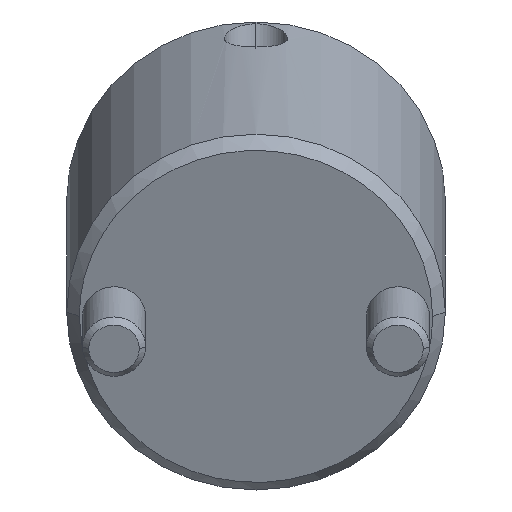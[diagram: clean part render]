
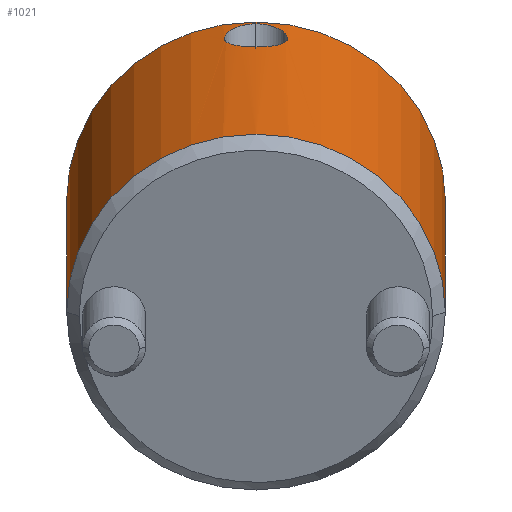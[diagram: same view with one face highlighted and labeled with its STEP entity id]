
A CAD part, front view. The second image highlights one B-rep face of the part: STEP entity #1021.
In plain terms, the highlighted cylindrical face has radius 15 mm (diameter 30 mm), a partial arc.
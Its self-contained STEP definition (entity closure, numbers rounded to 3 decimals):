
#778=CARTESIAN_POINT('Vertex',(0.,15.,1.)) ;
#781=CARTESIAN_POINT('Axis2P3D Location',(0.,0.,1.)) ;
#785=CARTESIAN_POINT('Vertex',(0.,-15.,1.)) ;
#925=CARTESIAN_POINT('Axis2P3D Location',(0.,0.,-1.4)) ;
#930=CARTESIAN_POINT('Line Origine',(0.,15.,-1.4)) ;
#934=CARTESIAN_POINT('Vertex',(0.,15.,27.)) ;
#937=CARTESIAN_POINT('Axis2P3D Location',(0.,0.,27.)) ;
#941=CARTESIAN_POINT('Vertex',(0.,-15.,27.)) ;
#944=CARTESIAN_POINT('Line Origine',(0.,-15.,-1.4)) ;
#956=CARTESIAN_POINT('Control Point',(15.,0.,26.57)) ;
#957=CARTESIAN_POINT('Control Point',(15.,0.072,26.57)) ;
#958=CARTESIAN_POINT('Control Point',(15.,0.143,26.567)) ;
#959=CARTESIAN_POINT('Control Point',(14.999,0.215,26.562)) ;
#960=CARTESIAN_POINT('Control Point',(14.995,0.43,26.536)) ;
#961=CARTESIAN_POINT('Control Point',(14.987,0.644,26.482)) ;
#962=CARTESIAN_POINT('Control Point',(14.98,0.791,26.433)) ;
#963=CARTESIAN_POINT('Control Point',(14.963,1.068,26.315)) ;
#964=CARTESIAN_POINT('Control Point',(14.943,1.321,26.156)) ;
#965=CARTESIAN_POINT('Control Point',(14.931,1.446,26.063)) ;
#966=CARTESIAN_POINT('Control Point',(14.888,1.86,25.706)) ;
#967=CARTESIAN_POINT('Control Point',(14.842,2.185,25.238)) ;
#968=CARTESIAN_POINT('Control Point',(14.813,2.362,24.853)) ;
#969=CARTESIAN_POINT('Control Point',(14.779,2.566,24.037)) ;
#970=CARTESIAN_POINT('Control Point',(14.794,2.477,23.216)) ;
#971=CARTESIAN_POINT('Control Point',(14.815,2.36,22.828)) ;
#972=CARTESIAN_POINT('Control Point',(14.861,2.062,22.266)) ;
#973=CARTESIAN_POINT('Control Point',(14.914,1.62,21.831)) ;
#974=CARTESIAN_POINT('Control Point',(14.933,1.437,21.688)) ;
#975=CARTESIAN_POINT('Control Point',(14.961,1.112,21.49)) ;
#976=CARTESIAN_POINT('Control Point',(14.982,0.75,21.358)) ;
#977=CARTESIAN_POINT('Control Point',(14.989,0.597,21.315)) ;
#978=CARTESIAN_POINT('Control Point',(14.996,0.388,21.273)) ;
#979=CARTESIAN_POINT('Control Point',(14.999,0.179,21.254)) ;
#980=CARTESIAN_POINT('Control Point',(15.,0.12,21.251)) ;
#981=CARTESIAN_POINT('Control Point',(15.,0.06,21.249)) ;
#982=CARTESIAN_POINT('Control Point',(15.,0.,21.249)) ;
#983=CARTESIAN_POINT('Vertex',(15.,0.,26.57)) ;
#985=CARTESIAN_POINT('Vertex',(15.,0.,21.249)) ;
#989=CARTESIAN_POINT('Control Point',(15.,0.,21.249)) ;
#990=CARTESIAN_POINT('Control Point',(15.,-0.15,21.249)) ;
#991=CARTESIAN_POINT('Control Point',(14.998,-0.3,21.26)) ;
#992=CARTESIAN_POINT('Control Point',(14.994,-0.45,21.283)) ;
#993=CARTESIAN_POINT('Control Point',(14.983,-0.75,21.353)) ;
#994=CARTESIAN_POINT('Control Point',(14.965,-1.037,21.468)) ;
#995=CARTESIAN_POINT('Control Point',(14.955,-1.172,21.535)) ;
#996=CARTESIAN_POINT('Control Point',(14.91,-1.699,21.849)) ;
#997=CARTESIAN_POINT('Control Point',(14.854,-2.117,22.318)) ;
#998=CARTESIAN_POINT('Control Point',(14.816,-2.347,22.745)) ;
#999=CARTESIAN_POINT('Control Point',(14.787,-2.517,23.376)) ;
#1000=CARTESIAN_POINT('Control Point',(14.79,-2.501,24.027)) ;
#1001=CARTESIAN_POINT('Control Point',(14.793,-2.484,24.194)) ;
#1002=CARTESIAN_POINT('Control Point',(14.805,-2.414,24.603)) ;
#1003=CARTESIAN_POINT('Control Point',(14.827,-2.273,24.995)) ;
#1004=CARTESIAN_POINT('Control Point',(14.844,-2.163,25.22)) ;
#1005=CARTESIAN_POINT('Control Point',(14.881,-1.904,25.631)) ;
#1006=CARTESIAN_POINT('Control Point',(14.919,-1.572,25.969)) ;
#1007=CARTESIAN_POINT('Control Point',(14.937,-1.389,26.118)) ;
#1008=CARTESIAN_POINT('Control Point',(14.959,-1.134,26.282)) ;
#1009=CARTESIAN_POINT('Control Point',(14.976,-0.853,26.403)) ;
#1010=CARTESIAN_POINT('Control Point',(14.98,-0.782,26.431)) ;
#1011=CARTESIAN_POINT('Control Point',(14.989,-0.587,26.497)) ;
#1012=CARTESIAN_POINT('Control Point',(14.996,-0.386,26.543)) ;
#1013=CARTESIAN_POINT('Control Point',(14.999,-0.258,26.561)) ;
#1014=CARTESIAN_POINT('Control Point',(15.,-0.13,26.57)) ;
#1015=CARTESIAN_POINT('Control Point',(15.,0.,26.57)) ;
#782=DIRECTION('Axis2P3D Direction',(0.,0.,1.)) ;
#926=DIRECTION('Axis2P3D Direction',(0.,-0.,1.)) ;
#927=DIRECTION('Axis2P3D XDirection',(0.,-1.,0.)) ;
#931=DIRECTION('Vector Direction',(0.,0.,1.)) ;
#938=DIRECTION('Axis2P3D Direction',(0.,-0.,1.)) ;
#945=DIRECTION('Vector Direction',(0.,0.,1.)) ;
#783=AXIS2_PLACEMENT_3D('Circle Axis2P3D',#781,#782,$) ;
#928=AXIS2_PLACEMENT_3D('Cylinder Axis2P3D',#925,#926,#927) ;
#939=AXIS2_PLACEMENT_3D('Circle Axis2P3D',#937,#938,$) ;
#950=ORIENTED_EDGE('',*,*,#936,.F.) ;
#951=ORIENTED_EDGE('',*,*,#943,.T.) ;
#952=ORIENTED_EDGE('',*,*,#948,.T.) ;
#953=ORIENTED_EDGE('',*,*,#787,.F.) ;
#1018=ORIENTED_EDGE('',*,*,#987,.T.) ;
#1019=ORIENTED_EDGE('',*,*,#1016,.T.) ;
#1020=FACE_BOUND('',#1017,.T.) ;
#932=VECTOR('Line Direction',#931,1.) ;
#946=VECTOR('Line Direction',#945,1.) ;
#1021=ADVANCED_FACE('MANIFOLD_SOLID_BREP #1110',(#954,#1020),#929,.T.) ;
#955=B_SPLINE_CURVE_WITH_KNOTS('',5,(#956,#957,#958,#959,#960,#961,#962,#963,#964,#965,#966,#967,#968,#969,#970,#971,#972,#973,#974,#975,#976,#977,#978,#979,#980,#981,#982),.UNSPECIFIED.,.F.,.U.,(6,3,3,3,3,3,3,3,6),(0.,0.522,1.585,2.689,5.532,8.315,9.952,11.041,11.476),.UNSPECIFIED.) ;
#988=B_SPLINE_CURVE_WITH_KNOTS('',5,(#989,#990,#991,#992,#993,#994,#995,#996,#997,#998,#999,#1000,#1001,#1002,#1003,#1004,#1005,#1006,#1007,#1008,#1009,#1010,#1011,#1012,#1013,#1014,#1015),.UNSPECIFIED.,.F.,.U.,(6,3,3,3,3,3,3,3,6),(0.,1.099,2.195,5.529,6.659,8.361,10.015,10.551,11.487),.UNSPECIFIED.) ;
#784=CIRCLE('generated circle',#783,15.) ;
#940=CIRCLE('generated circle',#939,15.) ;
#929=CYLINDRICAL_SURFACE('generated cylinder',#928,15.) ;
#787=EDGE_CURVE('',#779,#786,#784,.F.) ;
#936=EDGE_CURVE('',#935,#779,#933,.F.) ;
#943=EDGE_CURVE('',#935,#942,#940,.F.) ;
#948=EDGE_CURVE('',#942,#786,#947,.F.) ;
#987=EDGE_CURVE('',#984,#986,#955,.T.) ;
#1016=EDGE_CURVE('',#986,#984,#988,.T.) ;
#949=EDGE_LOOP('',(#950,#951,#952,#953)) ;
#1017=EDGE_LOOP('',(#1018,#1019)) ;
#954=FACE_OUTER_BOUND('',#949,.T.) ;
#933=LINE('Line',#930,#932) ;
#947=LINE('Line',#944,#946) ;
#779=VERTEX_POINT('',#778) ;
#786=VERTEX_POINT('',#785) ;
#935=VERTEX_POINT('',#934) ;
#942=VERTEX_POINT('',#941) ;
#984=VERTEX_POINT('',#983) ;
#986=VERTEX_POINT('',#985) ;
